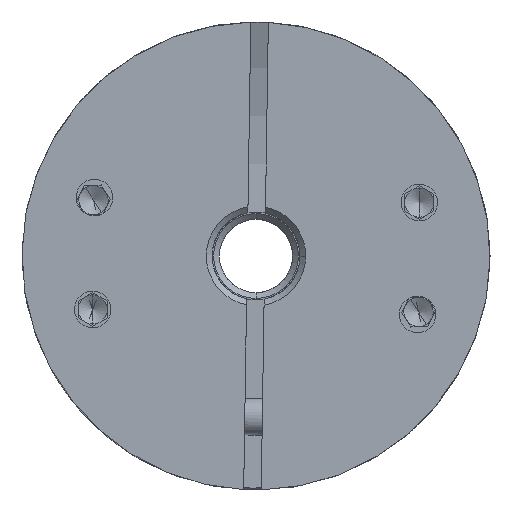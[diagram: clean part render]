
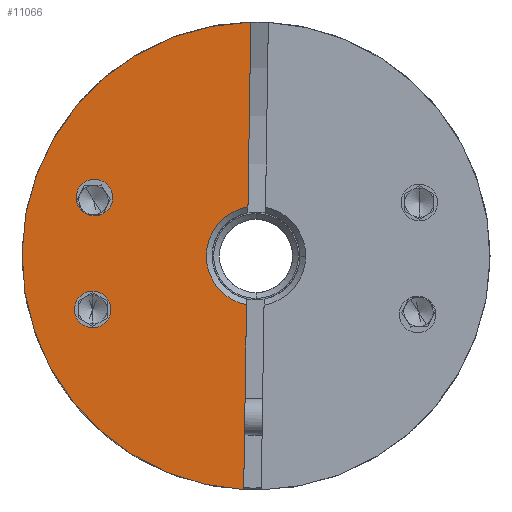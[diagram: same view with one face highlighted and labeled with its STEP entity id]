
A CAD part, front view. The second image highlights one B-rep face of the part: STEP entity #11066.
In plain terms, the highlighted planar face has unit normal (0, -1, 0).
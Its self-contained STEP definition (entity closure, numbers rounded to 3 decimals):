
#9 = VERTEX_POINT ( 'NONE', #5302 ) ;
#157 = CIRCLE ( 'NONE', #20408, 16. ) ;
#260 = CARTESIAN_POINT ( 'NONE',  ( -70.345, -19.411, -3.656 ) ) ;
#383 = CARTESIAN_POINT ( 'NONE',  ( -70.229, -19.411, 3.994 ) ) ;
#574 = EDGE_CURVE ( 'NONE', #12607, #9, #14759, .T. ) ;
#682 = EDGE_CURVE ( 'NONE', #24203, #2012, #16509, .T. ) ;
#790 = CARTESIAN_POINT ( 'NONE',  ( -59.829, -19.411, -3.337 ) ) ;
#1013 = DIRECTION ( 'NONE',  ( 0., 1., 0. ) ) ;
#1057 = DIRECTION ( 'NONE',  ( 1., 0., -0.015 ) ) ;
#1405 = VECTOR ( 'NONE', #14668, 1000. ) ;
#1710 = AXIS2_PLACEMENT_3D ( 'NONE', #20823, #5904, #22665 ) ;
#1946 = CARTESIAN_POINT ( 'NONE',  ( -59.535, -19.411, 15.996 ) ) ;
#2012 = VERTEX_POINT ( 'NONE', #16093 ) ;
#2155 = EDGE_LOOP ( 'NONE', ( #13942, #12338 ) ) ;
#2335 = EDGE_CURVE ( 'NONE', #12539, #15017, #11530, .T. ) ;
#2382 = EDGE_LOOP ( 'NONE', ( #9176, #10279 ) ) ;
#2775 = CARTESIAN_POINT ( 'NONE',  ( -59.178, -19.411, 0. ) ) ;
#2905 = DIRECTION ( 'NONE',  ( 0., -1., 0. ) ) ;
#3538 = EDGE_CURVE ( 'NONE', #2012, #24203, #5914, .T. ) ;
#4637 = EDGE_CURVE ( 'NONE', #21137, #9, #20750, .T. ) ;
#4676 = AXIS2_PLACEMENT_3D ( 'NONE', #2775, #1013, #6688 ) ;
#4700 = CARTESIAN_POINT ( 'NONE',  ( -59.178, -19.411, 0. ) ) ;
#5302 = CARTESIAN_POINT ( 'NONE',  ( -59.727, -19.411, 3.355 ) ) ;
#5703 = DIRECTION ( 'NONE',  ( 1., 0., -0.015 ) ) ;
#5904 = DIRECTION ( 'NONE',  ( 0., 1., 0. ) ) ;
#5914 = CIRCLE ( 'NONE', #6145, 1.25 ) ;
#6025 = DIRECTION ( 'NONE',  ( 0., 1., 0. ) ) ;
#6145 = AXIS2_PLACEMENT_3D ( 'NONE', #383, #15027, #9616 ) ;
#6229 = CARTESIAN_POINT ( 'NONE',  ( -59.178, -19.411, 0. ) ) ;
#6376 = ORIENTED_EDGE ( 'NONE', *, *, #18109, .T. ) ;
#6688 = DIRECTION ( 'NONE',  ( 1., 0., -0.015 ) ) ;
#6853 = DIRECTION ( 'NONE',  ( 0., 1., 0. ) ) ;
#7349 = EDGE_CURVE ( 'NONE', #15017, #12539, #16850, .T. ) ;
#7907 = VERTEX_POINT ( 'NONE', #8261 ) ;
#8261 = CARTESIAN_POINT ( 'NONE',  ( -60.021, -19.411, -15.978 ) ) ;
#9176 = ORIENTED_EDGE ( 'NONE', *, *, #3538, .T. ) ;
#9294 = AXIS2_PLACEMENT_3D ( 'NONE', #9393, #22385, #5703 ) ;
#9322 = ORIENTED_EDGE ( 'NONE', *, *, #22998, .F. ) ;
#9393 = CARTESIAN_POINT ( 'NONE',  ( -59.178, -19.411, 0. ) ) ;
#9616 = DIRECTION ( 'NONE',  ( 1., 0., -0.015 ) ) ;
#10254 = CIRCLE ( 'NONE', #9294, 16. ) ;
#10279 = ORIENTED_EDGE ( 'NONE', *, *, #682, .T. ) ;
#10529 = DIRECTION ( 'NONE',  ( 1., 0., -0.015 ) ) ;
#10865 = CARTESIAN_POINT ( 'NONE',  ( -68.979, -19.411, 3.975 ) ) ;
#11066 = ADVANCED_FACE ( 'NONE', ( #17287, #11190, #14657 ), #13460, .T. ) ;
#11190 = FACE_BOUND ( 'NONE', #2382, .T. ) ;
#11477 = EDGE_LOOP ( 'NONE', ( #9322, #23848, #23436, #6376, #16155 ) ) ;
#11530 = CIRCLE ( 'NONE', #1710, 1.25 ) ;
#12338 = ORIENTED_EDGE ( 'NONE', *, *, #7349, .T. ) ;
#12539 = VERTEX_POINT ( 'NONE', #16178 ) ;
#12607 = VERTEX_POINT ( 'NONE', #790 ) ;
#13423 = CARTESIAN_POINT ( 'NONE',  ( -59.687, -19.411, 6.008 ) ) ;
#13460 = PLANE ( 'NONE',  #18826 ) ;
#13578 = DIRECTION ( 'NONE',  ( -0.015, 0., -1. ) ) ;
#13942 = ORIENTED_EDGE ( 'NONE', *, *, #2335, .T. ) ;
#14589 = CARTESIAN_POINT ( 'NONE',  ( -59.687, -19.411, 6.008 ) ) ;
#14657 = FACE_BOUND ( 'NONE', #2155, .T. ) ;
#14668 = DIRECTION ( 'NONE',  ( -0.015, 0., -1. ) ) ;
#14759 = CIRCLE ( 'NONE', #4676, 3.4 ) ;
#14836 = LINE ( 'NONE', #14589, #1405 ) ;
#15017 = VERTEX_POINT ( 'NONE', #15355 ) ;
#15027 = DIRECTION ( 'NONE',  ( 0., 1., 0. ) ) ;
#15328 = AXIS2_PLACEMENT_3D ( 'NONE', #260, #6025, #22466 ) ;
#15355 = CARTESIAN_POINT ( 'NONE',  ( -69.095, -19.411, -3.675 ) ) ;
#16093 = CARTESIAN_POINT ( 'NONE',  ( -71.479, -19.411, 4.013 ) ) ;
#16155 = ORIENTED_EDGE ( 'NONE', *, *, #16193, .T. ) ;
#16178 = CARTESIAN_POINT ( 'NONE',  ( -71.595, -19.411, -3.637 ) ) ;
#16193 = EDGE_CURVE ( 'NONE', #21358, #7907, #10254, .T. ) ;
#16509 = CIRCLE ( 'NONE', #18552, 1.25 ) ;
#16850 = CIRCLE ( 'NONE', #15328, 1.25 ) ;
#16943 = VECTOR ( 'NONE', #13578, 1000. ) ;
#17287 = FACE_OUTER_BOUND ( 'NONE', #11477, .T. ) ;
#18092 = CARTESIAN_POINT ( 'NONE',  ( -70.229, -19.411, 3.994 ) ) ;
#18109 = EDGE_CURVE ( 'NONE', #21137, #21358, #157, .T. ) ;
#18552 = AXIS2_PLACEMENT_3D ( 'NONE', #18092, #6853, #10529 ) ;
#18826 = AXIS2_PLACEMENT_3D ( 'NONE', #6229, #19248, #21123 ) ;
#19248 = DIRECTION ( 'NONE',  ( 0., -1., 0. ) ) ;
#19741 = CARTESIAN_POINT ( 'NONE',  ( -75.176, -19.411, 0.243 ) ) ;
#20408 = AXIS2_PLACEMENT_3D ( 'NONE', #4700, #2905, #1057 ) ;
#20750 = LINE ( 'NONE', #13423, #16943 ) ;
#20823 = CARTESIAN_POINT ( 'NONE',  ( -70.345, -19.411, -3.656 ) ) ;
#21123 = DIRECTION ( 'NONE',  ( 1., 0., -0.015 ) ) ;
#21137 = VERTEX_POINT ( 'NONE', #1946 ) ;
#21358 = VERTEX_POINT ( 'NONE', #19741 ) ;
#22385 = DIRECTION ( 'NONE',  ( 0., -1., 0. ) ) ;
#22466 = DIRECTION ( 'NONE',  ( 1., 0., -0.015 ) ) ;
#22665 = DIRECTION ( 'NONE',  ( 1., 0., -0.015 ) ) ;
#22998 = EDGE_CURVE ( 'NONE', #12607, #7907, #14836, .T. ) ;
#23436 = ORIENTED_EDGE ( 'NONE', *, *, #4637, .F. ) ;
#23848 = ORIENTED_EDGE ( 'NONE', *, *, #574, .T. ) ;
#24203 = VERTEX_POINT ( 'NONE', #10865 ) ;
